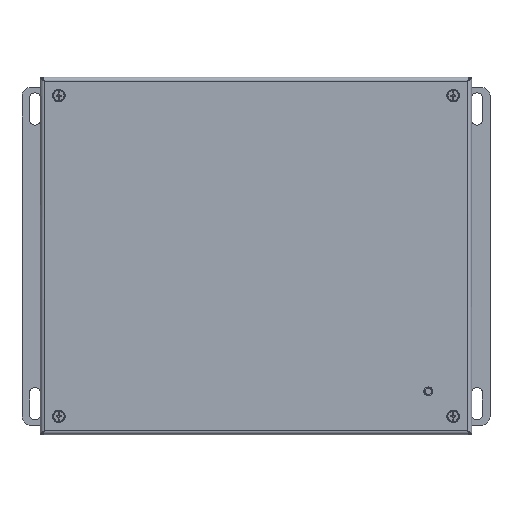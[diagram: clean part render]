
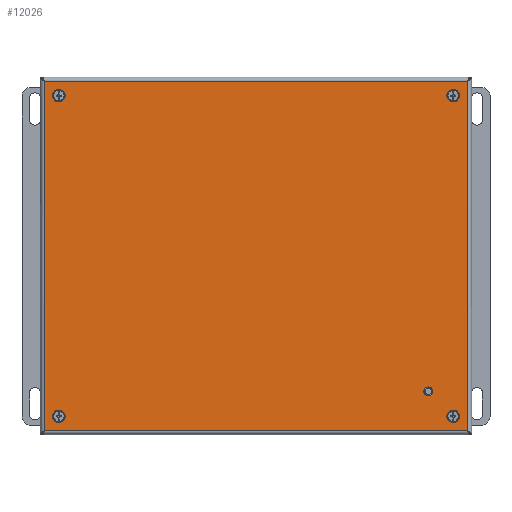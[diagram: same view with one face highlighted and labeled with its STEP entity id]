
A CAD part, top view. The second image highlights one B-rep face of the part: STEP entity #12026.
In plain terms, the highlighted planar face has unit normal (0, 0, 1) as drawn and (0, 0, -1) by its records, which use the part's own axes.
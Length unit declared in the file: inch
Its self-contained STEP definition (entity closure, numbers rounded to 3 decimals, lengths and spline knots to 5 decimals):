
#9902=DIRECTION('',(0.,-1.,0.));
#9903=VECTOR('',#9902,10.0885);
#9904=CARTESIAN_POINT('',(12.3255,-0.00827,0.));
#9905=LINE('',#9904,#9903);
#9995=CARTESIAN_POINT('',(1.25,-8.95877,0.));
#9996=DIRECTION('',(0.,0.,-1.));
#9997=DIRECTION('',(0.,-1.,0.));
#9998=AXIS2_PLACEMENT_3D('',#9995,#9996,#9997);
#10003=CARTESIAN_POINT('',(1.25,-8.95877,0.));
#10004=DIRECTION('',(0.,0.,-1.));
#10005=DIRECTION('',(0.,1.,0.));
#10006=AXIS2_PLACEMENT_3D('',#10003,#10004,#10005);
#10011=CARTESIAN_POINT('',(0.53125,-9.67752,0.));
#10012=DIRECTION('',(0.,0.,-1.));
#10013=DIRECTION('',(0.,-1.,0.));
#10014=AXIS2_PLACEMENT_3D('',#10011,#10012,#10013);
#10019=CARTESIAN_POINT('',(0.53125,-9.67752,0.));
#10020=DIRECTION('',(0.,0.,-1.));
#10021=DIRECTION('',(0.,1.,0.));
#10022=AXIS2_PLACEMENT_3D('',#10019,#10020,#10021);
#10027=CARTESIAN_POINT('',(0.53125,-0.42752,0.));
#10028=DIRECTION('',(0.,0.,-1.));
#10029=DIRECTION('',(0.,-1.,0.));
#10030=AXIS2_PLACEMENT_3D('',#10027,#10028,#10029);
#10035=CARTESIAN_POINT('',(0.53125,-0.42752,0.));
#10036=DIRECTION('',(0.,0.,-1.));
#10037=DIRECTION('',(0.,1.,0.));
#10038=AXIS2_PLACEMENT_3D('',#10035,#10036,#10037);
#10043=CARTESIAN_POINT('',(11.90625,-0.42752,0.));
#10044=DIRECTION('',(0.,0.,-1.));
#10045=DIRECTION('',(0.,-1.,0.));
#10046=AXIS2_PLACEMENT_3D('',#10043,#10044,#10045);
#10051=CARTESIAN_POINT('',(11.90625,-0.42752,0.));
#10052=DIRECTION('',(0.,0.,-1.));
#10053=DIRECTION('',(0.,1.,0.));
#10054=AXIS2_PLACEMENT_3D('',#10051,#10052,#10053);
#10059=CARTESIAN_POINT('',(11.90625,-9.67752,0.));
#10060=DIRECTION('',(0.,0.,-1.));
#10061=DIRECTION('',(0.,-1.,0.));
#10062=AXIS2_PLACEMENT_3D('',#10059,#10060,#10061);
#10067=CARTESIAN_POINT('',(11.90625,-9.67752,0.));
#10068=DIRECTION('',(0.,0.,-1.));
#10069=DIRECTION('',(0.,1.,0.));
#10070=AXIS2_PLACEMENT_3D('',#10067,#10068,#10069);
#10852=DIRECTION('',(1.,0.,0.));
#10853=VECTOR('',#10852,12.2135);
#10854=CARTESIAN_POINT('',(0.112,-10.09677,0.));
#10855=LINE('',#10854,#10853);
#11060=DIRECTION('',(0.,-1.,0.));
#11061=VECTOR('',#11060,10.0885);
#11062=CARTESIAN_POINT('',(0.112,-0.00827,0.));
#11063=LINE('',#11062,#11061);
#11211=DIRECTION('',(1.,0.,0.));
#11212=VECTOR('',#11211,12.2135);
#11213=CARTESIAN_POINT('',(0.112,-0.00827,0.));
#11214=LINE('',#11213,#11212);
#11380=CARTESIAN_POINT('',(0.112,-0.00827,0.));
#11381=CARTESIAN_POINT('',(12.3255,-0.00827,0.));
#11382=VERTEX_POINT('',#11380);
#11383=VERTEX_POINT('',#11381);
#11396=CARTESIAN_POINT('',(0.112,-10.09677,0.));
#11397=CARTESIAN_POINT('',(12.3255,-10.09677,0.));
#11398=VERTEX_POINT('',#11396);
#11399=VERTEX_POINT('',#11397);
#11408=CARTESIAN_POINT('',(1.25,-9.05682,0.));
#11409=CARTESIAN_POINT('',(1.25,-8.86072,0.));
#11410=VERTEX_POINT('',#11408);
#11411=VERTEX_POINT('',#11409);
#11416=CARTESIAN_POINT('',(0.53125,-9.81052,0.));
#11417=CARTESIAN_POINT('',(0.53125,-9.54452,0.));
#11418=VERTEX_POINT('',#11416);
#11419=VERTEX_POINT('',#11417);
#11420=CARTESIAN_POINT('',(0.53125,-0.56052,0.));
#11421=CARTESIAN_POINT('',(0.53125,-0.29452,0.));
#11422=VERTEX_POINT('',#11420);
#11423=VERTEX_POINT('',#11421);
#11424=CARTESIAN_POINT('',(11.90625,-0.56052,0.));
#11425=CARTESIAN_POINT('',(11.90625,-0.29452,0.));
#11426=VERTEX_POINT('',#11424);
#11427=VERTEX_POINT('',#11425);
#11428=CARTESIAN_POINT('',(11.90625,-9.81052,0.));
#11429=CARTESIAN_POINT('',(11.90625,-9.54452,0.));
#11430=VERTEX_POINT('',#11428);
#11431=VERTEX_POINT('',#11429);
#11982=CARTESIAN_POINT('',(0.,0.10373,0.));
#11983=DIRECTION('',(0.,0.,-1.));
#11984=DIRECTION('',(1.,0.,0.));
#11985=AXIS2_PLACEMENT_3D('',#11982,#11983,#11984);
#11986=PLANE('',#11985);
#11988=ORIENTED_EDGE('',*,*,#11987,.T.);
#11990=ORIENTED_EDGE('',*,*,#11989,.T.);
#11991=ORIENTED_EDGE('',*,*,#11972,.F.);
#11993=ORIENTED_EDGE('',*,*,#11992,.F.);
#11994=EDGE_LOOP('',(#11988,#11990,#11991,#11993));
#11995=FACE_OUTER_BOUND('',#11994,.F.);
#11997=ORIENTED_EDGE('',*,*,#11996,.T.);
#11999=ORIENTED_EDGE('',*,*,#11998,.T.);
#12000=EDGE_LOOP('',(#11997,#11999));
#12001=FACE_BOUND('',#12000,.F.);
#12003=ORIENTED_EDGE('',*,*,#12002,.T.);
#12005=ORIENTED_EDGE('',*,*,#12004,.T.);
#12006=EDGE_LOOP('',(#12003,#12005));
#12007=FACE_BOUND('',#12006,.F.);
#12009=ORIENTED_EDGE('',*,*,#12008,.T.);
#12011=ORIENTED_EDGE('',*,*,#12010,.T.);
#12012=EDGE_LOOP('',(#12009,#12011));
#12013=FACE_BOUND('',#12012,.F.);
#12015=ORIENTED_EDGE('',*,*,#12014,.T.);
#12017=ORIENTED_EDGE('',*,*,#12016,.T.);
#12018=EDGE_LOOP('',(#12015,#12017));
#12019=FACE_BOUND('',#12018,.F.);
#12021=ORIENTED_EDGE('',*,*,#12020,.T.);
#12023=ORIENTED_EDGE('',*,*,#12022,.T.);
#12024=EDGE_LOOP('',(#12021,#12023));
#12025=FACE_BOUND('',#12024,.F.);
#9999=CIRCLE('',#9998,0.09805);
#10007=CIRCLE('',#10006,0.09805);
#10015=CIRCLE('',#10014,0.133);
#10023=CIRCLE('',#10022,0.133);
#10031=CIRCLE('',#10030,0.133);
#10039=CIRCLE('',#10038,0.133);
#10047=CIRCLE('',#10046,0.133);
#10055=CIRCLE('',#10054,0.133);
#10063=CIRCLE('',#10062,0.133);
#10071=CIRCLE('',#10070,0.133);
#11972=EDGE_CURVE('',#11383,#11399,#9905,.T.);
#11987=EDGE_CURVE('',#11382,#11398,#11063,.T.);
#11989=EDGE_CURVE('',#11398,#11399,#10855,.T.);
#11992=EDGE_CURVE('',#11382,#11383,#11214,.T.);
#11996=EDGE_CURVE('',#11418,#11419,#10015,.T.);
#11998=EDGE_CURVE('',#11419,#11418,#10023,.T.);
#12002=EDGE_CURVE('',#11422,#11423,#10031,.T.);
#12004=EDGE_CURVE('',#11423,#11422,#10039,.T.);
#12008=EDGE_CURVE('',#11426,#11427,#10047,.T.);
#12010=EDGE_CURVE('',#11427,#11426,#10055,.T.);
#12014=EDGE_CURVE('',#11430,#11431,#10063,.T.);
#12016=EDGE_CURVE('',#11431,#11430,#10071,.T.);
#12020=EDGE_CURVE('',#11410,#11411,#9999,.T.);
#12022=EDGE_CURVE('',#11411,#11410,#10007,.T.);
#12026=ADVANCED_FACE('',(#11995,#12001,#12007,#12013,#12019,#12025),#11986,.T.);
